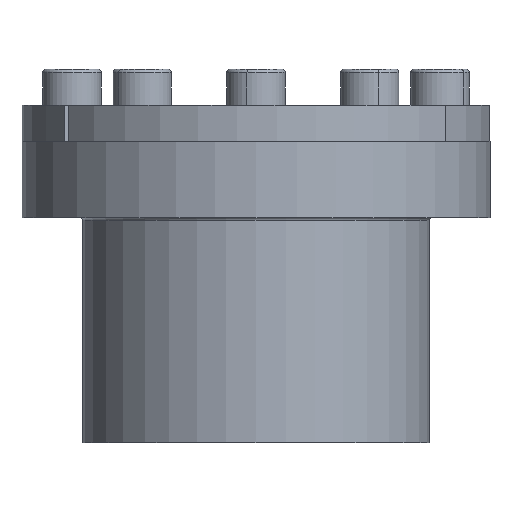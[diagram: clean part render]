
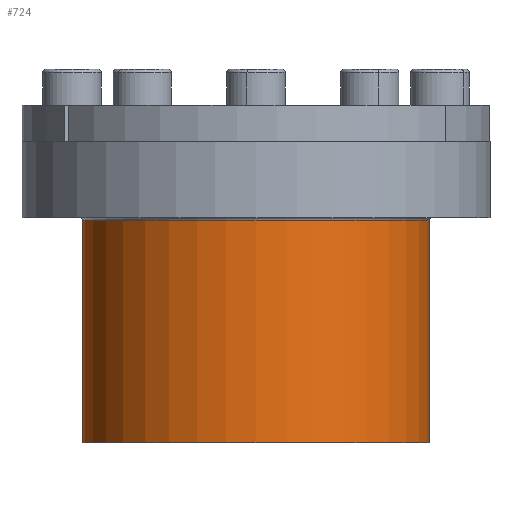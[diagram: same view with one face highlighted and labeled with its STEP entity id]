
A CAD part, front view. The second image highlights one B-rep face of the part: STEP entity #724.
In plain terms, the highlighted cylindrical face has radius 38.5 mm (diameter 77 mm), a partial arc.
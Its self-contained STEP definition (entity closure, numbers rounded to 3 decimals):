
#146 = CARTESIAN_POINT ( 'NONE',  ( -38.5, 0., -61. ) ) ;
#685 = VERTEX_POINT ( 'NONE', #7881 ) ;
#724 = ADVANCED_FACE ( 'NONE', ( #3314 ), #11098, .T. ) ;
#2043 = DIRECTION ( 'NONE',  ( -1., 0., 0. ) ) ;
#2201 = VERTEX_POINT ( 'NONE', #4341 ) ;
#2737 = DIRECTION ( 'NONE',  ( 0., 0., -1. ) ) ;
#3314 = FACE_OUTER_BOUND ( 'NONE', #8438, .T. ) ;
#3944 = CARTESIAN_POINT ( 'NONE',  ( -38.5, 0., -11. ) ) ;
#4116 = EDGE_CURVE ( 'NONE', #685, #14266, #14865, .T. ) ;
#4341 = CARTESIAN_POINT ( 'NONE',  ( -38.5, 0., -11.6 ) ) ;
#4422 = CARTESIAN_POINT ( 'NONE',  ( 0., 0., -11. ) ) ;
#5187 = DIRECTION ( 'NONE',  ( 0., 0., -1. ) ) ;
#5298 = EDGE_CURVE ( 'NONE', #2201, #12305, #8892, .T. ) ;
#5612 = VECTOR ( 'NONE', #8600, 1000. ) ;
#5934 = AXIS2_PLACEMENT_3D ( 'NONE', #14394, #7151, #15595 ) ;
#6330 = ORIENTED_EDGE ( 'NONE', *, *, #15243, .F. ) ;
#6891 = ORIENTED_EDGE ( 'NONE', *, *, #5298, .T. ) ;
#7151 = DIRECTION ( 'NONE',  ( 0., 0., -1. ) ) ;
#7881 = CARTESIAN_POINT ( 'NONE',  ( 38.5, 0., -11.6 ) ) ;
#8131 = ORIENTED_EDGE ( 'NONE', *, *, #10592, .T. ) ;
#8438 = EDGE_LOOP ( 'NONE', ( #12963, #8131, #6891, #6330 ) ) ;
#8530 = VECTOR ( 'NONE', #2737, 1000. ) ;
#8600 = DIRECTION ( 'NONE',  ( 0., 0., -1. ) ) ;
#8892 = LINE ( 'NONE', #3944, #8530 ) ;
#9371 = CIRCLE ( 'NONE', #14842, 38.5 ) ;
#10356 = AXIS2_PLACEMENT_3D ( 'NONE', #4422, #14069, #2043 ) ;
#10592 = EDGE_CURVE ( 'NONE', #685, #2201, #9371, .T. ) ;
#11045 = CIRCLE ( 'NONE', #5934, 38.5 ) ;
#11098 = CYLINDRICAL_SURFACE ( 'NONE', #10356, 38.5 ) ;
#12305 = VERTEX_POINT ( 'NONE', #146 ) ;
#12414 = CARTESIAN_POINT ( 'NONE',  ( 0., 0., -11.6 ) ) ;
#12963 = ORIENTED_EDGE ( 'NONE', *, *, #4116, .F. ) ;
#13521 = CARTESIAN_POINT ( 'NONE',  ( 38.5, 0., -11. ) ) ;
#13623 = DIRECTION ( 'NONE',  ( -1., 0., 0. ) ) ;
#13815 = CARTESIAN_POINT ( 'NONE',  ( 38.5, 0., -61. ) ) ;
#14069 = DIRECTION ( 'NONE',  ( 0., 0., -1. ) ) ;
#14266 = VERTEX_POINT ( 'NONE', #13815 ) ;
#14394 = CARTESIAN_POINT ( 'NONE',  ( 0., 0., -61. ) ) ;
#14842 = AXIS2_PLACEMENT_3D ( 'NONE', #12414, #5187, #13623 ) ;
#14865 = LINE ( 'NONE', #13521, #5612 ) ;
#15243 = EDGE_CURVE ( 'NONE', #14266, #12305, #11045, .T. ) ;
#15595 = DIRECTION ( 'NONE',  ( -1., 0., 0. ) ) ;
